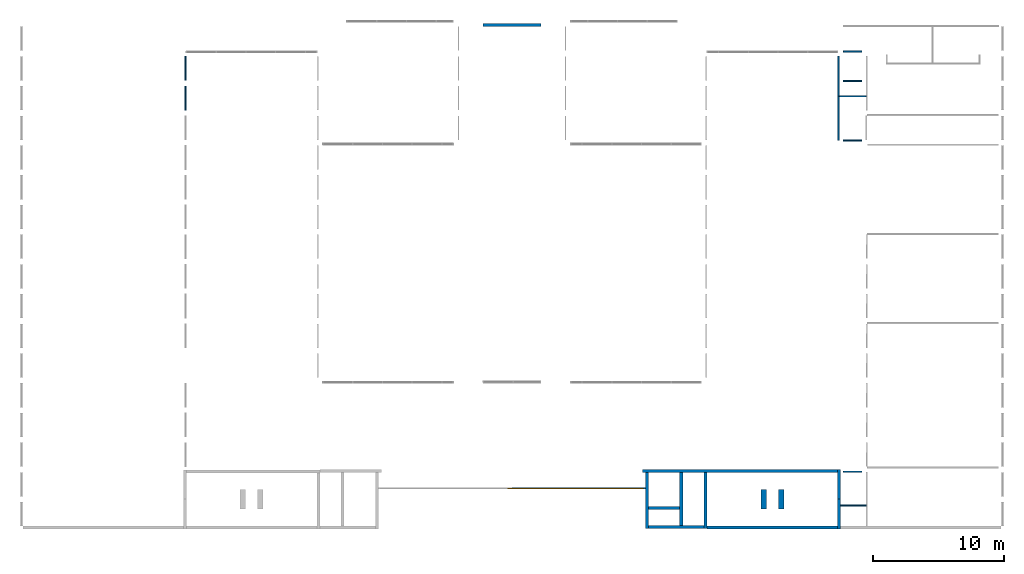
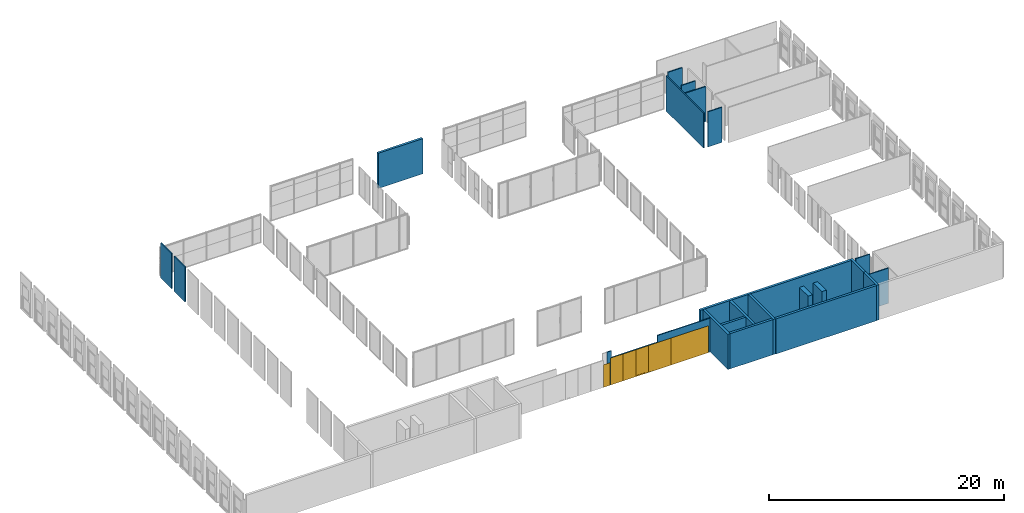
# One storey, part 11 of 15: 22 walls, 6 windows, 7 openings.
"""IFC2X3 building model written with IfcOpenShell, lengths in millimetres."""

from ifc_helpers import new_model, entity, si_unit, converted_unit, derived_unit, direction, frame, frame_2d, origin, origin_2d_with_axis, place, context, subcontext, project, spatial, polyline, rectangle, outline, extrude, clip, bounded_halfspace, source, transform, mapped, material, material_list, layer, layer_set, layer_usage, type_object, type_shapes, element, fill, save


model = new_model("IFC2X3")

# Units and contexts
model_context = context("Model", 3, precision=0.01, world=origin(), true_north=direction((6.12303176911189e-17, 1.0)))
body_context = subcontext(model_context, "Body", "Model", "MODEL_VIEW")
ifc_project = project(units=[si_unit("LENGTHUNIT", "METRE", prefix="MILLI"), si_unit("AREAUNIT", "SQUARE_METRE"), si_unit("VOLUMEUNIT", "CUBIC_METRE"), converted_unit("PLANEANGLEUNIT", "DEGREE", entity("IfcRatioMeasure", 0.0174532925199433), si_unit("PLANEANGLEUNIT", "RADIAN"), dimensions=[0, 0, 0, 0, 0, 0, 0]), si_unit("MASSUNIT", "GRAM", prefix="KILO"), derived_unit("MASSDENSITYUNIT", [(si_unit("MASSUNIT", "GRAM", prefix="KILO"), 1), (si_unit("LENGTHUNIT", "METRE"), -3)]), derived_unit("MOMENTOFINERTIAUNIT", [(si_unit("LENGTHUNIT", "METRE"), 4)]), si_unit("TIMEUNIT", "SECOND"), si_unit("FREQUENCYUNIT", "HERTZ"), si_unit("THERMODYNAMICTEMPERATUREUNIT", "DEGREE_CELSIUS"), derived_unit("THERMALTRANSMITTANCEUNIT", [(si_unit("MASSUNIT", "GRAM", prefix="KILO"), 1), (si_unit("THERMODYNAMICTEMPERATUREUNIT", "KELVIN"), -1), (si_unit("TIMEUNIT", "SECOND"), -3)]), derived_unit("VOLUMETRICFLOWRATEUNIT", [(si_unit("LENGTHUNIT", "METRE"), 3), (si_unit("TIMEUNIT", "SECOND"), -1)]), si_unit("ELECTRICCURRENTUNIT", "AMPERE"), si_unit("ELECTRICVOLTAGEUNIT", "VOLT"), si_unit("POWERUNIT", "WATT"), si_unit("FORCEUNIT", "NEWTON", prefix="KILO"), si_unit("ILLUMINANCEUNIT", "LUX"), si_unit("LUMINOUSFLUXUNIT", "LUMEN"), si_unit("LUMINOUSINTENSITYUNIT", "CANDELA"), derived_unit("USERDEFINED", [(si_unit("MASSUNIT", "GRAM", prefix="KILO"), -1), (si_unit("LENGTHUNIT", "METRE"), -2), (si_unit("TIMEUNIT", "SECOND"), 3), (si_unit("LUMINOUSFLUXUNIT", "LUMEN"), 1)]), derived_unit("LINEARVELOCITYUNIT", [(si_unit("LENGTHUNIT", "METRE"), 1), (si_unit("TIMEUNIT", "SECOND"), -1)]), si_unit("PRESSUREUNIT", "PASCAL"), derived_unit("USERDEFINED", [(si_unit("LENGTHUNIT", "METRE"), -2), (si_unit("MASSUNIT", "GRAM", prefix="KILO"), 1), (si_unit("TIMEUNIT", "SECOND"), -2)]), derived_unit("LINEARFORCEUNIT", [(si_unit("MASSUNIT", "GRAM", prefix="KILO"), 1), (si_unit("LENGTHUNIT", "METRE"), 1), (si_unit("TIMEUNIT", "SECOND"), -2), (si_unit("LENGTHUNIT", "METRE"), -1)]), derived_unit("PLANARFORCEUNIT", [(si_unit("MASSUNIT", "GRAM", prefix="KILO"), 1), (si_unit("LENGTHUNIT", "METRE"), 1), (si_unit("TIMEUNIT", "SECOND"), -2), (si_unit("LENGTHUNIT", "METRE"), -2)])], contexts=[model_context])

# Site, building, storey
site_placement = place(None, frame((10627.5135316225, 21939.0796949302, 0.0)))
site = spatial("IfcSite", under=ifc_project, at=site_placement, Name="Default", CompositionType="ELEMENT")
building_placement = place(site_placement, origin())
building = spatial("IfcBuilding", under=site, at=building_placement, CompositionType="ELEMENT")
storey_placement = place(building_placement, origin())
storey = spatial("IfcBuildingStorey", under=building, at=storey_placement, Name="RDC", CompositionType="ELEMENT", Elevation=0.0)

# Wall, openings, windows
ifc_material_1 = material(Name="Paint - White Lining")
ifc_layer_1 = layer(ifc_material_1, 3.0)
ifc_material_2 = material(Name="Concrete Masonry Units")
ifc_layer_2 = layer(ifc_material_2, 94.0)
ifc_layer_3 = layer(ifc_material_1, 3.0)
ifc_layer_set_1 = layer_set([ifc_layer_1, ifc_layer_2, ifc_layer_3], Name="Basic Wall:Wall-Int 100")
ifc_layer_usage_1 = layer_usage(ifc_layer_set_1, "AXIS2", "POSITIVE", -50.0)
wall_type_1 = type_object("IfcWallType", Name="Basic Wall:Wall-Int 100", PredefinedType="STANDARD", material=ifc_layer_set_1)
wall_1_placement = place(storey_placement, frame((36735.1073360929, -18847.9430237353, 0.0), z_axis=(0.0, 0.0, 1.0), x_axis=(-1.0, 0.0, 0.0)))
wall_1 = element("IfcWallStandardCase", 1, at=wall_1_placement, inside=storey, type_object=wall_type_1, material=ifc_layer_usage_1, Name="Basic Wall:Wall-Int 100", ObjectType="Basic Wall:Wall-Int 100", context=body_context, shape_type="Clipping", body=[
    clip(extrude(rectangle(XDim=10157.6208677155, YDim=99.9999999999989, at=frame_2d((5078.81043385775, -3.76587649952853e-13), x_axis=(-1.0, 0.0))), origin(), (0.0, 0.0, 1.0), 3530.0), bounded_halfspace(frame((9942.62086771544, -50.0, 3530.0), z_axis=(0.0, 0.0, -1.0), x_axis=(0.0, -1.0, 0.0)), True, frame((9942.62086771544, -50.0, 3530.0)), polyline([(0.0, 0.0), (0.0, 48.3642208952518), (-226.024865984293, 48.3642208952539), (-226.024865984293, 0.0), (0.0, 0.0)]))),
])
opening_1_placement = place(wall_1_placement, origin())
element("IfcOpeningElement", 2, at=opening_1_placement, cuts=wall_1, Name="Basic Wall:Wall-Int 100", ObjectType="Opening", context=body_context, shape_type="SweptSolid", body=[
    extrude(rectangle(XDim=8034.27016951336, YDim=4520.0, at=frame_2d((6.82121026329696e-13, 2.27373675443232e-12), x_axis=(1.0, 0.0))), frame((7456.59600173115, -202.400000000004, 6832.86491524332), z_axis=(0.0, 1.0, 0.0), x_axis=(0.0, 0.0, 1.0)), (0.0, 0.0, 1.0), 404.800000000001),
])
opening_2_placement = place(wall_1_placement, frame((9836.0, -50.0, 2.0)))
opening_2 = element("IfcOpeningElement", 3, at=opening_2_placement, cuts=wall_1, Name="Entrance windows:Central:1", ObjectType="Opening", context=body_context, shape_type="SweptSolid", body=[
    extrude(rectangle(XDim=2340.0, YDim=640.0, at=frame_2d((1170.0, 320.000000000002), x_axis=(1.0, 0.0))), frame((0.0, 0.0, 0.0), z_axis=(0.0, 1.0, 0.0), x_axis=(0.0, 0.0, 1.0)), (0.0, 0.0, 1.0), 100.0),
])
opening_3_placement = place(wall_1_placement, frame((3860.0, -50.0, 2.0)))
opening_3 = element("IfcOpeningElement", 4, at=opening_3_placement, cuts=wall_1, Name="Entrance windows:Short:1", ObjectType="Opening", context=body_context, shape_type="SweptSolid", body=[
    extrude(rectangle(XDim=2800.0, YDim=2200.0, at=frame_2d((1400.0, 1100.0), x_axis=(1.0, 0.0))), frame((0.0, 0.0, 0.0), z_axis=(0.0, 1.0, 0.0), x_axis=(0.0, 0.0, 1.0)), (0.0, 0.0, 1.0), 100.0),
])
opening_4_placement = place(wall_1_placement, frame((160.0, -50.0, 2.0)))
opening_4 = element("IfcOpeningElement", 5, at=opening_4_placement, cuts=wall_1, Name="Entrance windows:Entrance windows:1", ObjectType="Opening", context=body_context, shape_type="SweptSolid", body=[
    extrude(rectangle(XDim=2800.0, YDim=3700.0, at=frame_2d((1400.0, 1850.0), x_axis=(1.0, 0.0))), frame((0.0, 0.0, 0.0), z_axis=(0.0, 1.0, 0.0), x_axis=(0.0, 0.0, 1.0)), (0.0, 0.0, 1.0), 100.0),
])
opening_5_placement = place(wall_1_placement, frame((8568.50000000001, -50.0, 2.0)))
opening_5 = element("IfcOpeningElement", 6, at=opening_5_placement, cuts=wall_1, Name="Entrance windows:Door:1", ObjectType="Opening", context=body_context, shape_type="SweptSolid", body=[
    extrude(rectangle(XDim=2800.0, YDim=1250.0, at=frame_2d((1400.0, 625.0), x_axis=(1.0, 0.0))), frame((0.0, 0.0, 0.0), z_axis=(0.0, 1.0, 0.0), x_axis=(0.0, 0.0, 1.0)), (0.0, 0.0, 1.0), 100.0),
])
opening_6_placement = place(wall_1_placement, frame((7316.0, -50.0, 2.0)))
opening_6 = element("IfcOpeningElement", 7, at=opening_6_placement, cuts=wall_1, Name="Entrance windows:Door:1", ObjectType="Opening", context=body_context, shape_type="SweptSolid", body=[
    extrude(rectangle(XDim=2800.0, YDim=1250.0, at=frame_2d((1400.0, 625.0), x_axis=(1.0, 0.0))), frame((0.0, 0.0, 0.0), z_axis=(0.0, 1.0, 0.0), x_axis=(0.0, 0.0, 1.0)), (0.0, 0.0, 1.0), 100.0),
])
opening_7_placement = place(wall_1_placement, frame((6063.0, -50.0, 2.0)))
opening_7 = element("IfcOpeningElement", 8, at=opening_7_placement, cuts=wall_1, Name="Entrance windows:Door:1", ObjectType="Opening", context=body_context, shape_type="SweptSolid", body=[
    extrude(rectangle(XDim=2800.0, YDim=1250.0, at=frame_2d((1400.0, 625.0), x_axis=(1.0, 0.0))), frame((0.0, 0.0, 0.0), z_axis=(0.0, 1.0, 0.0), x_axis=(0.0, 0.0, 1.0)), (0.0, 0.0, 1.0), 100.0),
])
ifc_material_3 = material(Name="Glass")
ifc_material_4 = material(Name="Stainless Steel, Brushed")
ifc_material_list_1 = material_list([ifc_material_3, ifc_material_4])
ifc_material_list_2 = material_list([ifc_material_3, ifc_material_4])
window_style_1 = type_object("IfcWindowStyle", Name="Entrance windows:Entrance windows", ConstructionType="NOTDEFINED", OperationType="NOTDEFINED", ParameterTakesPrecedence=False, Sizeable=False, material=ifc_material_list_2)
shared_shape_1 = source(origin(), body_context, "Body", "SweptSolid", [
    extrude(outline(polyline([(-1750.0, -1300.0), (1750.0, -1300.0), (1750.0, 1300.0), (-1750.0, 1300.0), (-1750.0, -1300.0)]), holes=[polyline([(1747.0, 1297.0), (1747.0, -1297.0), (-1747.0, -1297.0), (-1747.0, 1297.0), (1747.0, 1297.0)])]), frame((1850.0, 73.0, 1400.0), z_axis=(0.0, -1.0, 0.0), x_axis=(-1.0, 0.0, 0.0)), (0.0, 0.0, 1.0), 3.0),
    extrude(rectangle(XDim=3494.0, YDim=3.0, at=origin_2d_with_axis()), frame((1850.0, 71.5000000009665, 103.0)), (0.0, 0.0, 1.0), 2594.0),
    extrude(outline(polyline([(-1750.0, -1300.0), (1750.0, -1300.0), (1750.0, 1300.0), (-1750.0, 1300.0), (-1750.0, -1300.0)]), holes=[polyline([(1747.0, 1297.0), (1747.0, -1297.0), (-1747.0, -1297.0), (-1747.0, 1297.0), (1747.0, 1297.0)])]), frame((1850.0, 97.0, 1400.0), z_axis=(0.0, -1.0, 0.0), x_axis=(-1.0, 0.0, 0.0)), (0.0, 0.0, 1.0), 3.0),
    extrude(rectangle(XDim=3494.0, YDim=3.0, at=frame_2d((0.0, 8.43769498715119e-15), x_axis=(1.0, 0.0))), frame((1850.0, 95.5000000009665, 103.0)), (0.0, 0.0, 1.0), 2594.0),
    extrude(outline(polyline([(-1850.0, -1400.0), (1850.0, -1400.0), (1850.0, 1400.0), (-1850.0, 1400.0), (-1850.0, -1400.0)]), holes=[polyline([(-1750.0, -1300.0), (-1750.0, 1300.0), (1750.0, 1300.0), (1750.0, -1300.0), (-1750.0, -1300.0)])]), frame((1850.0, 100.0, 1400.0), z_axis=(0.0, -1.0, 0.0), x_axis=(-1.0, 0.0, 0.0)), (0.0, 0.0, 1.0), 50.0),
])
type_shapes(window_style_1, [shared_shape_1])
window_1_placement = place(opening_4_placement, origin())
window_1 = element("IfcWindow", 9, at=window_1_placement, inside=storey, type_object=window_style_1, material=ifc_material_list_1, Name="Entrance windows:Entrance windows", ObjectType="Entrance windows:Entrance windows", OverallHeight=2800.0, OverallWidth=3700.0, context=body_context, shape_type="MappedRepresentation", body=[
    mapped(shared_shape_1, transform((0.0, 0.0, 0.0), scale=1.0)),
])
fill(opening_4, window_1)
ifc_material_list_3 = material_list([ifc_material_3, ifc_material_4])
ifc_material_list_4 = material_list([ifc_material_3, ifc_material_4])
window_style_2 = type_object("IfcWindowStyle", Name="Entrance windows:Short", ConstructionType="NOTDEFINED", OperationType="NOTDEFINED", ParameterTakesPrecedence=False, Sizeable=False, material=ifc_material_list_4)
shared_shape_2 = source(origin(), body_context, "Body", "SweptSolid", [
    extrude(outline(polyline([(-1000.0, -1300.0), (1000.0, -1300.0), (1000.0, 1300.0), (-1000.0, 1300.0), (-1000.0, -1300.0)]), holes=[polyline([(997.0, 1297.0), (997.0, -1297.0), (-997.0, -1297.0), (-997.0, 1297.0), (997.0, 1297.0)])]), frame((1100.0, 73.0, 1400.0), z_axis=(0.0, -1.0, 0.0), x_axis=(-1.0, 0.0, 0.0)), (0.0, 0.0, 1.0), 3.0),
    extrude(rectangle(XDim=1994.0, YDim=3.0, at=origin_2d_with_axis()), frame((1100.0, 71.5000000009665, 103.0)), (0.0, 0.0, 1.0), 2594.0),
    extrude(outline(polyline([(-1000.0, -1300.0), (1000.0, -1300.0), (1000.0, 1300.0), (-1000.0, 1300.0), (-1000.0, -1300.0)]), holes=[polyline([(997.0, 1297.0), (997.0, -1297.0), (-997.0, -1297.0), (-997.0, 1297.0), (997.0, 1297.0)])]), frame((1100.0, 97.0, 1400.0), z_axis=(0.0, -1.0, 0.0), x_axis=(-1.0, 0.0, 0.0)), (0.0, 0.0, 1.0), 3.0),
    extrude(rectangle(XDim=1994.0, YDim=3.0, at=frame_2d((0.0, 4.21884749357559e-15), x_axis=(1.0, 0.0))), frame((1100.0, 95.5000000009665, 103.0)), (0.0, 0.0, 1.0), 2594.0),
    extrude(outline(polyline([(-1100.0, -1400.0), (1100.0, -1400.0), (1100.0, 1400.0), (-1100.0, 1400.0), (-1100.0, -1400.0)]), holes=[polyline([(-1000.0, -1300.0), (-1000.0, 1300.0), (1000.0, 1300.0), (1000.0, -1300.0), (-1000.0, -1300.0)])]), frame((1100.0, 100.0, 1400.0), z_axis=(0.0, -1.0, 0.0), x_axis=(-1.0, 0.0, 0.0)), (0.0, 0.0, 1.0), 50.0),
])
type_shapes(window_style_2, [shared_shape_2])
window_2_placement = place(opening_3_placement, origin())
window_2 = element("IfcWindow", 10, at=window_2_placement, inside=storey, type_object=window_style_2, material=ifc_material_list_3, Name="Entrance windows:Short", ObjectType="Entrance windows:Short", OverallHeight=2800.0, OverallWidth=2200.0, context=body_context, shape_type="MappedRepresentation", body=[
    mapped(shared_shape_2, transform((0.0, 0.0, 0.0), scale=1.0)),
])
fill(opening_3, window_2)
ifc_material_list_5 = material_list([ifc_material_3, ifc_material_4])
ifc_material_list_6 = material_list([ifc_material_3, ifc_material_4])
window_style_3 = type_object("IfcWindowStyle", Name="Entrance windows:Door", ConstructionType="NOTDEFINED", OperationType="NOTDEFINED", ParameterTakesPrecedence=False, Sizeable=False, material=ifc_material_list_6)
shared_shape_3 = source(origin(), body_context, "Body", "SweptSolid", [
    extrude(outline(polyline([(-525.0, -1300.0), (525.0, -1300.0), (525.0, 1300.0), (-525.0, 1300.0), (-525.0, -1300.0)]), holes=[polyline([(522.0, 1297.0), (522.0, -1297.0), (-522.0, -1297.0), (-522.0, 1297.0), (522.0, 1297.0)])]), frame((625.0, 73.0, 1400.0), z_axis=(0.0, -1.0, 0.0), x_axis=(-1.0, 0.0, 0.0)), (0.0, 0.0, 1.0), 3.0),
    extrude(rectangle(XDim=1044.0, YDim=3.0, at=frame_2d((0.0, 2.1094237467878e-15), x_axis=(1.0, 0.0))), frame((625.0, 71.5000000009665, 103.0)), (0.0, 0.0, 1.0), 2594.0),
    extrude(outline(polyline([(-525.0, -1300.0), (525.0, -1300.0), (525.0, 1300.0), (-525.0, 1300.0), (-525.0, -1300.0)]), holes=[polyline([(522.0, 1297.0), (522.0, -1297.0), (-522.0, -1297.0), (-522.0, 1297.0), (522.0, 1297.0)])]), frame((625.0, 97.0, 1400.0), z_axis=(0.0, -1.0, 0.0), x_axis=(-1.0, 0.0, 0.0)), (0.0, 0.0, 1.0), 3.0),
    extrude(rectangle(XDim=1044.0, YDim=3.0, at=frame_2d((0.0, 8.43769498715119e-15), x_axis=(1.0, 0.0))), frame((625.0, 95.5000000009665, 103.0)), (0.0, 0.0, 1.0), 2594.0),
    extrude(outline(polyline([(-625.0, -1400.0), (625.0, -1400.0), (625.0, 1400.0), (-625.0, 1400.0), (-625.0, -1400.0)]), holes=[polyline([(-525.0, -1300.0), (-525.0, 1300.0), (525.0, 1300.0), (525.0, -1300.0), (-525.0, -1300.0)])]), frame((625.0, 100.0, 1400.0), z_axis=(0.0, -1.0, 0.0), x_axis=(-1.0, 0.0, 0.0)), (0.0, 0.0, 1.0), 50.0),
])
type_shapes(window_style_3, [shared_shape_3])
window_3_placement = place(opening_7_placement, origin())
window_3 = element("IfcWindow", 11, at=window_3_placement, inside=storey, type_object=window_style_3, material=ifc_material_list_5, Name="Entrance windows:Door", ObjectType="Entrance windows:Door", OverallHeight=2800.0, OverallWidth=1250.0, context=body_context, shape_type="MappedRepresentation", body=[
    mapped(shared_shape_3, transform((0.0, 0.0, 0.0), scale=1.0)),
])
fill(opening_7, window_3)
ifc_material_list_7 = material_list([ifc_material_3, ifc_material_4])
window_4_placement = place(opening_6_placement, origin())
window_4 = element("IfcWindow", 12, at=window_4_placement, inside=storey, type_object=window_style_3, material=ifc_material_list_7, Name="Entrance windows:Door", ObjectType="Entrance windows:Door", OverallHeight=2800.0, OverallWidth=1250.0, context=body_context, shape_type="MappedRepresentation", body=[
    mapped(shared_shape_3, transform((0.0, 0.0, 0.0), scale=1.0)),
])
fill(opening_6, window_4)
ifc_material_list_8 = material_list([ifc_material_3, ifc_material_4])
window_5_placement = place(opening_5_placement, origin())
window_5 = element("IfcWindow", 13, at=window_5_placement, inside=storey, type_object=window_style_3, material=ifc_material_list_8, Name="Entrance windows:Door", ObjectType="Entrance windows:Door", OverallHeight=2800.0, OverallWidth=1250.0, context=body_context, shape_type="MappedRepresentation", body=[
    mapped(shared_shape_3, transform((0.0, 0.0, 0.0), scale=1.0)),
])
fill(opening_5, window_5)
ifc_material_list_9 = material_list([ifc_material_4, ifc_material_3])
window_style_4 = type_object("IfcWindowStyle", Name="Entrance windows:Central", ConstructionType="NOTDEFINED", OperationType="NOTDEFINED", ParameterTakesPrecedence=False, Sizeable=False, material=ifc_material_4)
shared_shape_4 = source(origin(), body_context, "Body", "SweptSolid", [
    extrude(outline(polyline([(-320.0, -1170.0), (320.0, -1170.0), (320.0, 1170.0), (-320.0, 1170.0), (-320.0, -1170.0)]), holes=[polyline([(-220.0, -1070.0), (-220.0, 1070.0), (220.0, 1070.0), (220.0, -1070.0), (-220.0, -1070.0)])]), frame((320.0, 50.0, 1170.0), z_axis=(0.0, 1.0, 0.0), x_axis=(1.0, 0.0, 0.0)), (0.0, 0.0, 1.0), 50.0),
    extrude(outline(polyline([(-220.0, -1070.0), (220.0, -1070.0), (220.0, 1070.0), (-220.0, 1070.0), (-220.0, -1070.0)]), holes=[polyline([(217.0, 1067.0), (217.0, -1067.0), (-217.0, -1067.0), (-217.0, 1067.0), (217.0, 1067.0)])]), frame((320.0, 70.0, 1170.0), z_axis=(0.0, 1.0, 0.0), x_axis=(1.0, 0.0, 0.0)), (0.0, 0.0, 1.0), 3.0),
    extrude(rectangle(XDim=3.0, YDim=434.000000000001, at=frame_2d((2.1094237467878e-15, 0.0), x_axis=(1.0, 0.0))), frame((320.0, 71.5000000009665, 103.0), z_axis=(0.0, 0.0, 1.0), x_axis=(0.0, 1.0, 0.0)), (0.0, 0.0, 1.0), 2134.0),
    extrude(outline(polyline([(-220.0, -1070.0), (220.0, -1070.0), (220.0, 1070.0), (-220.0, 1070.0), (-220.0, -1070.0)]), holes=[polyline([(217.0, 1067.0), (217.0, -1067.0), (-217.0, -1067.0), (-217.0, 1067.0), (217.0, 1067.0)])]), frame((320.0, 94.0, 1170.0), z_axis=(0.0, 1.0, 0.0), x_axis=(1.0, 0.0, 0.0)), (0.0, 0.0, 1.0), 3.0),
    extrude(rectangle(XDim=3.0, YDim=434.000000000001, at=frame_2d((4.21884749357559e-15, 0.0), x_axis=(1.0, 0.0))), frame((320.0, 95.5000000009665, 103.0), z_axis=(0.0, 0.0, 1.0), x_axis=(0.0, 1.0, 0.0)), (0.0, 0.0, 1.0), 2134.0),
])
type_shapes(window_style_4, [shared_shape_4])
window_6_placement = place(opening_2_placement, origin())
window_6 = element("IfcWindow", 14, at=window_6_placement, inside=storey, type_object=window_style_4, material=ifc_material_list_9, Name="Entrance windows:Central", ObjectType="Entrance windows:Central", OverallHeight=2340.0, OverallWidth=640.000000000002, context=body_context, shape_type="MappedRepresentation", body=[
    mapped(shared_shape_4, transform((0.0, 0.0, 0.0), scale=1.0)),
])
fill(opening_2, window_6)

# Walls
ifc_layer_usage_2 = layer_usage(ifc_layer_set_1, "AXIS2", "NEGATIVE", 50.0)
wall_2_placement = place(storey_placement, frame((51572.4864683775, -20159.0796949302, 0.0)))
element("IfcWallStandardCase", 15, at=wall_2_placement, inside=storey, type_object=wall_type_1, material=ifc_layer_usage_2, Name="Basic Wall:Wall-Int 100", ObjectType="Basic Wall:Wall-Int 100", context=body_context, shape_type="SweptSolid", body=[
    extrude(rectangle(XDim=1942.99999999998, YDim=100.000000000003, at=frame_2d((971.499999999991, -7.105427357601e-14), x_axis=(-1.0, 0.0))), origin(), (0.0, 0.0, 1.0), 3660.0),
])
ifc_layer_usage_3 = layer_usage(ifc_layer_set_1, "AXIS2", "NEGATIVE", 50.0)
wall_3_placement = place(storey_placement, frame((53189.4864683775, -17584.0796949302, 0.0), z_axis=(0.0, 0.0, 1.0), x_axis=(-1.0, 0.0, 0.0)))
element("IfcWallStandardCase", 16, at=wall_3_placement, inside=storey, type_object=wall_type_1, material=ifc_layer_usage_3, Name="Basic Wall:Wall-Int 100", ObjectType="Basic Wall:Wall-Int 100", context=body_context, shape_type="SweptSolid", body=[
    extrude(rectangle(XDim=1404.0, YDim=99.9999999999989, at=frame_2d((702.000000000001, 0.0), x_axis=(-1.0, 0.0))), origin(), (0.0, 0.0, 1.0), 3660.0),
])
ifc_layer_usage_4 = layer_usage(ifc_layer_set_1, "AXIS2", "POSITIVE", -50.0)
wall_4_placement = place(storey_placement, frame((53187.4864683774, 14385.9203050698, 0.0), z_axis=(0.0, 0.0, 1.0), x_axis=(-1.0, 0.0, 0.0)))
element("IfcWallStandardCase", 17, at=wall_4_placement, inside=storey, type_object=wall_type_1, material=ifc_layer_usage_4, Name="Basic Wall:Wall-Int 100", ObjectType="Basic Wall:Wall-Int 100", context=body_context, shape_type="SweptSolid", body=[
    extrude(rectangle(XDim=1399.99999999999, YDim=99.9999999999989, at=frame_2d((699.999999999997, 0.0), x_axis=(-1.0, 0.0))), origin(), (0.0, 0.0, 1.0), 3660.0),
])
ifc_layer_usage_5 = layer_usage(ifc_layer_set_1, "AXIS2", "POSITIVE", -50.0)
wall_5_placement = place(storey_placement, frame((51420.1205964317, 14019.2390047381, 0.0), z_axis=(0.0, 0.0, 1.0), x_axis=(0.0, -1.0, 0.0)))
element("IfcWallStandardCase", 18, at=wall_5_placement, inside=storey, type_object=wall_type_1, material=ifc_layer_usage_5, Name="Basic Wall:Wall-Int 100", ObjectType="Basic Wall:Wall-Int 100", context=body_context, shape_type="SweptSolid", body=[
    extrude(rectangle(XDim=6400.0, YDim=99.9999999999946, at=frame_2d((3200.0, 2.1316282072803e-14), x_axis=(-1.0, 0.0))), origin(), (0.0, 0.0, 1.0), 3660.0),
])
ifc_layer_usage_6 = layer_usage(ifc_layer_set_1, "AXIS2", "NEGATIVE", 50.0)
wall_6_placement = place(storey_placement, frame((51787.4864683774, 7605.9203050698, 0.0)))
element("IfcWallStandardCase", 19, at=wall_6_placement, inside=storey, type_object=wall_type_1, material=ifc_layer_usage_6, Name="Basic Wall:Wall-Int 100", ObjectType="Basic Wall:Wall-Int 100", context=body_context, shape_type="SweptSolid", body=[
    extrude(rectangle(XDim=1399.99999999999, YDim=99.9999999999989, at=frame_2d((699.999999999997, 0.0), x_axis=(-1.0, 0.0))), origin(), (0.0, 0.0, 1.0), 3660.0),
])
ifc_layer_usage_7 = layer_usage(ifc_layer_set_1, "AXIS2", "NEGATIVE", 50.0)
wall_7_placement = place(storey_placement, frame((51787.4864683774, 12125.9203050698, 0.0)))
element("IfcWallStandardCase", 20, at=wall_7_placement, inside=storey, type_object=wall_type_1, material=ifc_layer_usage_7, Name="Basic Wall:Wall-Int 100", ObjectType="Basic Wall:Wall-Int 100", context=body_context, shape_type="SweptSolid", body=[
    extrude(rectangle(XDim=1399.99999999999, YDim=99.9999999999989, at=frame_2d((699.999999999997, 0.0), x_axis=(-1.0, 0.0))), origin(), (0.0, 0.0, 1.0), 3660.0),
])
ifc_layer_usage_8 = layer_usage(ifc_layer_set_1, "AXIS2", "POSITIVE", -50.0)
wall_8_placement = place(storey_placement, frame((51470.1205964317, 10969.2308620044, 0.0)))
element("IfcWallStandardCase", 21, at=wall_8_placement, inside=storey, type_object=wall_type_1, material=ifc_layer_usage_8, Name="Basic Wall:Wall-Int 100", ObjectType="Basic Wall:Wall-Int 100", context=body_context, shape_type="SweptSolid", body=[
    extrude(rectangle(XDim=2045.36587194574, YDim=99.9999999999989, at=frame_2d((1022.68293597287, -1.52766688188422e-13), x_axis=(-1.0, 0.0))), origin(), (0.0, 0.0, 1.0), 3660.0),
])
ifc_layer_usage_9 = layer_usage(ifc_layer_set_1, "AXIS2", "NEGATIVE", 50.0)
wall_9_placement = place(storey_placement, frame((1750.48646837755, 14019.2390047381, 0.0), z_axis=(0.0, 0.0, 1.0), x_axis=(0.0, -1.0, 0.0)))
element("IfcWallStandardCase", 22, at=wall_9_placement, inside=storey, type_object=wall_type_1, material=ifc_layer_usage_9, Name="Basic Wall:Wall-Int 100", ObjectType="Basic Wall:Wall-Int 100", context=body_context, shape_type="SweptSolid", body=[
    extrude(rectangle(XDim=1843.31869966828, YDim=100.0, at=frame_2d((921.659349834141, 0.0), x_axis=(-1.0, 0.0))), origin(), (0.0, 0.0, 1.0), 3660.0),
])
ifc_layer_usage_10 = layer_usage(ifc_layer_set_1, "AXIS2", "NEGATIVE", 50.0)
wall_10_placement = place(storey_placement, frame((1748.48646837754, 11745.9203050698, 0.0), z_axis=(0.0, 0.0, 1.0), x_axis=(0.0, -1.0, 0.0)))
element("IfcWallStandardCase", 23, at=wall_10_placement, inside=storey, type_object=wall_type_1, material=ifc_layer_usage_10, Name="Basic Wall:Wall-Int 100", ObjectType="Basic Wall:Wall-Int 100", context=body_context, shape_type="SweptSolid", body=[
    extrude(rectangle(XDim=1830.0, YDim=100.0, at=frame_2d((914.999999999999, 0.0), x_axis=(-1.0, 0.0))), origin(), (0.0, 0.0, 1.0), 3660.0),
])
ifc_layer_4 = layer(ifc_material_1, 15.0)
ifc_material_5 = material(Name="Concrete - Precast Concrete - 35 MPa")
ifc_layer_5 = layer(ifc_material_5, 400.0)
ifc_layer_6 = layer(ifc_material_1, 15.0)
ifc_layer_set_2 = layer_set([ifc_layer_4, ifc_layer_5, ifc_layer_6], Name="Basic Wall:Mur430PentureBlanche")
ifc_layer_usage_11 = layer_usage(ifc_layer_set_2, "AXIS2", "POSITIVE", -215.0)
wall_type_2 = type_object("IfcWallType", Name="Basic Wall:Mur430PentureBlanche", PredefinedType="STANDARD", material=ifc_layer_set_2)
wall_11_placement = place(storey_placement, frame((47059.9064788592, -18920.8001977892, 0.0), z_axis=(0.0, 0.0, 1.0), x_axis=(0.0, -1.0, 0.0)))
element("IfcWallStandardCase", 24, at=wall_11_placement, inside=storey, type_object=wall_type_2, material=ifc_layer_usage_11, Name="Basic Wall:Mur430PentureBlanche", ObjectType="Basic Wall:Mur430PentureBlanche", context=body_context, shape_type="SweptSolid", body=[
    extrude(rectangle(XDim=1490.00177328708, YDim=430.000000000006, at=frame_2d((745.000886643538, -1.08002495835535e-12), x_axis=(-1.0, 0.0))), origin(), (0.0, 0.0, 1.0), 3660.0),
])
ifc_layer_usage_12 = layer_usage(ifc_layer_set_2, "AXIS2", "POSITIVE", -215.0)
wall_12_placement = place(storey_placement, frame((45714.9043663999, -18920.8001977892, 0.0), z_axis=(0.0, 0.0, 1.0), x_axis=(0.0, -1.0, 0.0)))
element("IfcWallStandardCase", 25, at=wall_12_placement, inside=storey, type_object=wall_type_2, material=ifc_layer_usage_12, Name="Basic Wall:Mur430PentureBlanche", ObjectType="Basic Wall:Mur430PentureBlanche", context=body_context, shape_type="SweptSolid", body=[
    extrude(rectangle(XDim=1490.00177328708, YDim=430.000000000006, at=frame_2d((745.000886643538, -1.08002495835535e-12), x_axis=(-1.0, 0.0))), origin(), (0.0, 0.0, 1.0), 3660.0),
])
ifc_layer_7 = layer(ifc_material_1, 15.0)
ifc_layer_8 = layer(ifc_material_5, 200.0)
ifc_layer_9 = layer(ifc_material_1, 15.0)
ifc_layer_set_3 = layer_set([ifc_layer_7, ifc_layer_8, ifc_layer_9], Name="Basic Wall:Mur200PentureBlanche 2")
ifc_layer_usage_13 = layer_usage(ifc_layer_set_3, "AXIS2", "POSITIVE", -115.0)
wall_type_3 = type_object("IfcWallType", Name="Basic Wall:Mur200PentureBlanche 2", PredefinedType="STANDARD", material=ifc_layer_set_3)
wall_13_placement = place(storey_placement, frame((51457.4864683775, -21939.0796949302, 0.0), z_axis=(0.0, 0.0, 1.0), x_axis=(0.0, 1.0, 0.0)))
element("IfcWallStandardCase", 26, at=wall_13_placement, inside=storey, type_object=wall_type_3, material=ifc_layer_usage_13, Name="Basic Wall:Mur200PentureBlanche 2", ObjectType="Basic Wall:Mur200PentureBlanche 2", context=body_context, shape_type="SweptSolid", body=[
    extrude(rectangle(XDim=2260.0, YDim=230.0, at=frame_2d((1130.0, -1.83320025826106e-12), x_axis=(-1.0, 0.0))), origin(), (0.0, 0.0, 1.0), 3660.0),
])
ifc_layer_usage_14 = layer_usage(ifc_layer_set_3, "AXIS2", "NEGATIVE", 115.0)
wall_14_placement = place(storey_placement, frame((51459.4864683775, -19679.0796949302, 0.0), z_axis=(0.0, 0.0, 1.0), x_axis=(0.0, 1.0, 0.0)))
element("IfcWallStandardCase", 27, at=wall_14_placement, inside=storey, type_object=wall_type_3, material=ifc_layer_usage_14, Name="Basic Wall:Mur200PentureBlanche 2", ObjectType="Basic Wall:Mur200PentureBlanche 2", context=body_context, shape_type="SweptSolid", body=[
    extrude(rectangle(XDim=2259.99999999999, YDim=230.0, at=frame_2d((1130.0, -1.83320025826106e-12), x_axis=(-1.0, 0.0))), origin(), (0.0, 0.0, 1.0), 3660.0),
])
ifc_layer_usage_15 = layer_usage(ifc_layer_set_3, "AXIS2", "NEGATIVE", 115.0)
wall_15_placement = place(storey_placement, frame((51344.4864683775, -17534.0796949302, 0.0), z_axis=(0.0, 0.0, 1.0), x_axis=(-1.0, 0.0, 0.0)))
element("IfcWallStandardCase", 28, at=wall_15_placement, inside=storey, type_object=wall_type_3, material=ifc_layer_usage_15, Name="Basic Wall:Mur200PentureBlanche 2", ObjectType="Basic Wall:Mur200PentureBlanche 2", context=body_context, shape_type="SweptSolid", body=[
    extrude(rectangle(XDim=14834.3791322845, YDim=230.0, at=frame_2d((7417.18956614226, 4.12114786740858e-13), x_axis=(-1.0, 0.0))), origin(), (0.0, 0.0, 1.0), 3660.0),
])
ifc_layer_usage_16 = layer_usage(ifc_layer_set_3, "AXIS2", "NEGATIVE", 115.0)
wall_16_placement = place(storey_placement, frame((41307.4864683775, -17649.0796949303, 0.0), z_axis=(0.0, 0.0, 1.0), x_axis=(0.0, -1.0, 0.0)))
element("IfcWallStandardCase", 29, at=wall_16_placement, inside=storey, type_object=wall_type_3, material=ifc_layer_usage_16, Name="Basic Wall:Mur200PentureBlanche 2", ObjectType="Basic Wall:Mur200PentureBlanche 2", context=body_context, shape_type="SweptSolid", body=[
    extrude(rectangle(XDim=4264.99999999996, YDim=230.0, at=frame_2d((2132.49999999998, -1.17239551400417e-12), x_axis=(-1.0, 0.0))), origin(), (0.0, 0.0, 1.0), 3660.0),
])
ifc_layer_usage_17 = layer_usage(ifc_layer_set_3, "AXIS2", "POSITIVE", -115.0)
wall_17_placement = place(storey_placement, frame((36850.1073360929, -17649.0796949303, 0.0), z_axis=(0.0, 0.0, 1.0), x_axis=(0.0, -1.0, 0.0)))
element("IfcWallStandardCase", 30, at=wall_17_placement, inside=storey, type_object=wall_type_3, material=ifc_layer_usage_17, Name="Basic Wall:Mur200PentureBlanche 2", ObjectType="Basic Wall:Mur200PentureBlanche 2", context=body_context, shape_type="SweptSolid", body=[
    extrude(rectangle(XDim=4264.99999999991, YDim=230.0, at=frame_2d((2132.49999999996, -1.4210854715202e-14), x_axis=(-1.0, 0.0))), origin(), (0.0, 0.0, 1.0), 3660.0),
])
ifc_layer_usage_18 = layer_usage(ifc_layer_set_3, "AXIS2", "POSITIVE", -115.0)
wall_18_placement = place(storey_placement, frame((36965.1073360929, -21799.0796949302, 0.0)))
element("IfcWallStandardCase", 31, at=wall_18_placement, inside=storey, type_object=wall_type_3, material=ifc_layer_usage_18, Name="Basic Wall:Mur200PentureBlanche 2", ObjectType="Basic Wall:Mur200PentureBlanche 2", context=body_context, shape_type="SweptSolid", body=[
    extrude(rectangle(XDim=4227.37913228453, YDim=230.0, at=frame_2d((2113.68956614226, -1.70530256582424e-13), x_axis=(-1.0, 0.0))), origin(), (0.0, 0.0, 1.0), 3660.0),
])
ifc_layer_usage_19 = layer_usage(ifc_layer_set_3, "AXIS2", "NEGATIVE", 115.0)
wall_19_placement = place(storey_placement, frame((39450.1065292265, -17649.0796949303, 0.0), z_axis=(0.0, 0.0, 1.0), x_axis=(0.0, -1.0, 0.0)))
element("IfcWallStandardCase", 32, at=wall_19_placement, inside=storey, type_object=wall_type_3, material=ifc_layer_usage_19, Name="Basic Wall:Mur200PentureBlanche 2", ObjectType="Basic Wall:Mur200PentureBlanche 2", context=body_context, shape_type="SweptSolid", body=[
    extrude(rectangle(XDim=4034.99999999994, YDim=230.0, at=frame_2d((2017.49999999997, -1.35003119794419e-13), x_axis=(-1.0, 0.0))), origin(), (0.0, 0.0, 1.0), 3660.0),
])
ifc_layer_usage_20 = layer_usage(ifc_layer_set_3, "AXIS2", "POSITIVE", -115.0)
wall_20_placement = place(storey_placement, frame((39335.1065292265, -20344.0796949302, 0.0), z_axis=(0.0, 0.0, 1.0), x_axis=(-1.0, 0.0, 0.0)))
element("IfcWallStandardCase", 33, at=wall_20_placement, inside=storey, type_object=wall_type_3, material=ifc_layer_usage_20, Name="Basic Wall:Mur200PentureBlanche 2", ObjectType="Basic Wall:Mur200PentureBlanche 2", context=body_context, shape_type="SweptSolid", body=[
    extrude(rectangle(XDim=2369.99919313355, YDim=230.0, at=frame_2d((1184.99959656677, -3.76587649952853e-13), x_axis=(-1.0, 0.0))), origin(), (0.0, 0.0, 1.0), 3660.0),
])
ifc_layer_usage_21 = layer_usage(ifc_layer_set_3, "AXIS2", "POSITIVE", -115.0)
wall_21_placement = place(storey_placement, frame((41422.4864683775, -21839.0796949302, 0.0)))
element("IfcWallStandardCase", 34, at=wall_21_placement, inside=storey, type_object=wall_type_3, material=ifc_layer_usage_21, Name="Basic Wall:Mur200PentureBlanche 2", ObjectType="Basic Wall:Mur200PentureBlanche 2", context=body_context, shape_type="SweptSolid", body=[
    extrude(rectangle(XDim=9920.0, YDim=230.0, at=frame_2d((4960.0, 4.12114786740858e-13), x_axis=(-1.0, 0.0))), origin(), (0.0, 0.0, 1.0), 3660.0),
])
ifc_layer_usage_22 = layer_usage(ifc_layer_set_3, "AXIS2", "POSITIVE", -115.0)
wall_22_placement = place(storey_placement, frame((24390.0884870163, 16379.2417029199, 0.0)))
element("IfcWallStandardCase", 35, at=wall_22_placement, inside=storey, type_object=wall_type_3, material=ifc_layer_usage_22, Name="Basic Wall:Mur200PentureBlanche 2", ObjectType="Basic Wall:Mur200PentureBlanche 2", context=body_context, shape_type="SweptSolid", body=[
    extrude(rectangle(XDim=4377.39798136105, YDim=230.0, at=frame_2d((2188.69899068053, -1.06581410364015e-13), x_axis=(-1.0, 0.0))), origin(), (0.0, 0.0, 1.0), 3660.0),
])

save(model, "model.ifc")
